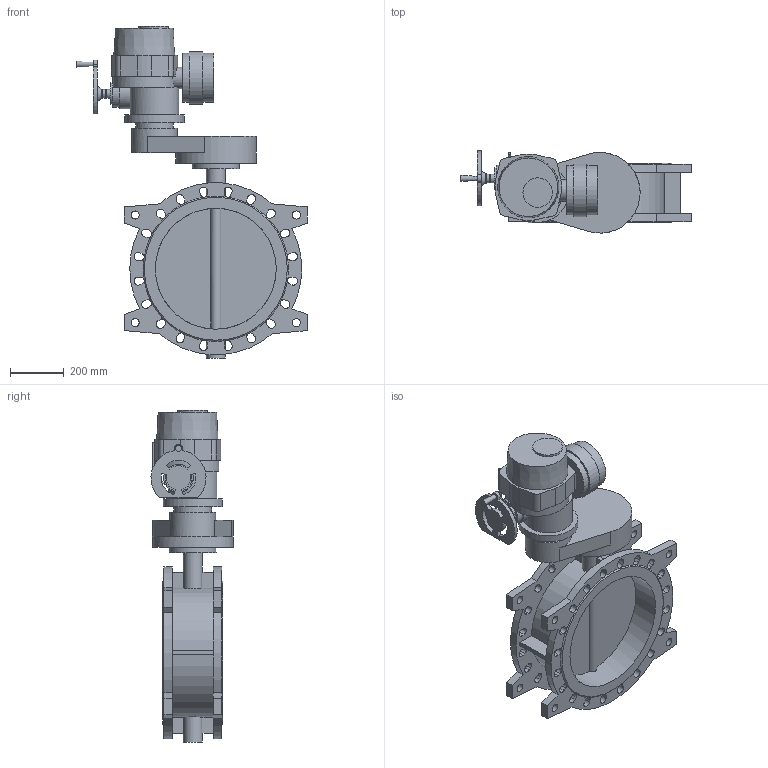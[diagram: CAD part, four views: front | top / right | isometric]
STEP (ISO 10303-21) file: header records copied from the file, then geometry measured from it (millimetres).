
FILE_DESCRIPTION(('STEP AP203'), '1');
FILE_NAME('青蜮铕 021F.Y DN450+菹 QT.A150', '', ('UNSPECIFIED'), ('UNSPECIFIED'), 'ASCON STEP Converter 1.6', 'ASCON Math Kernel', '');
FILE_SCHEMA(('CONFIG_CONTROL_DESIGN'));
Length unit declared in the file: millimetre
Bounding box: 857 x 305.23 x 1235 mm (x, y, z)
Volume: 46540412.9 mm3; surface area: 2831329.9 mm2
Topology: 1 solids, 1 shells, 381 faces, 1123 edges, 744 vertices
Faces by surface type: plane 208, cylinder 167, cone 5, torus 1
Full cylindrical faces by diameter (mm): 10 x2, 14 x12, 16 x1, 17.5 x4, 18 x4, 30 x8, 32 x2, 35 x1, 70 x2, 80 x2, 100 x1, 110 x1, 140 x1, 170 x1, 175 x1, 180 x1, 183 x2, 196 x1, 220 x1, 300 x1, 450 x2
Entity records: 18918 total; most frequent: CARTESIAN_POINT 5424, DIRECTION 2206, ORIENTED_EDGE 2126, EDGE_CURVE 1063, AXIS2_PLACEMENT_3D 827, VERTEX_POINT 742, LINE 552, VECTOR 552
